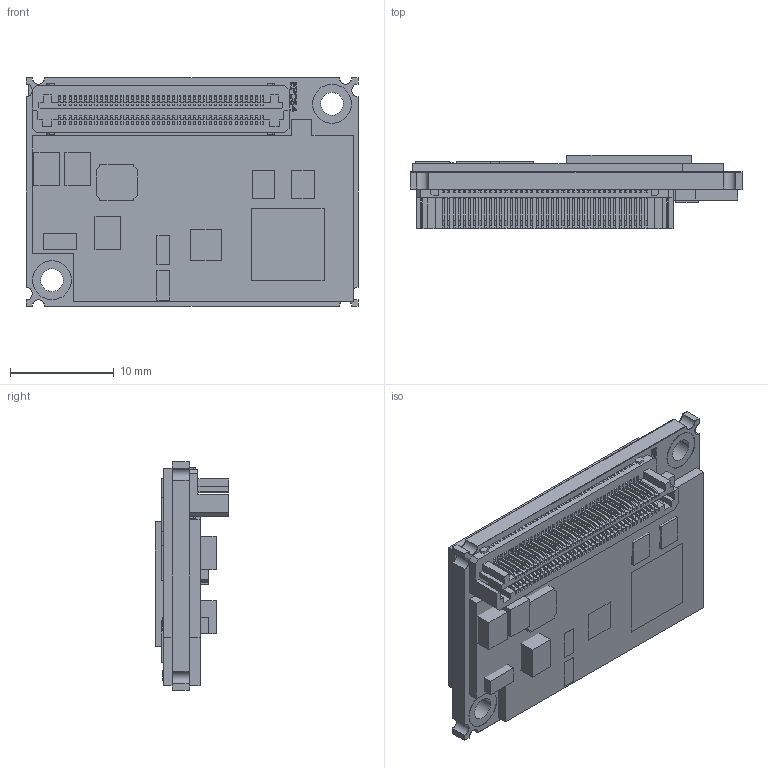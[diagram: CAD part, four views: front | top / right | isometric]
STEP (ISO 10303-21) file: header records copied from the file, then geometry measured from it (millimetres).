
FILE_DESCRIPTION((''),'2;1');
FILE_NAME('EPOS4_MICRO_24-5_ASM','2020-07-27T',('MMAGMMA'),(''),'CREO PARAMETRIC BY PTC INC, 2017300','CREO PARAMETRIC BY PTC INC, 2017300','');
FILE_SCHEMA(('CONFIG_CONTROL_DESIGN'));
Products named in the file (29): EPOS4_MICRO_24-5_PCB; EPOS4_MICRO_24-5_SITO; EPOS4_MICRO_24-5_SIBO; POWERPAK_1212; 0612_R; IC_7X7X1; PQFP-G80; 1210_C; DROSSEL_4X4X1-8; 1206_C; 0603_C; 0402_R; LSHM_EINFACH; DROSSEL_2-7X2-2X1-2; SW3DPS-3-LEAD_SOT23-3; TDFN-8; HVSON8_QFN; 0805_C; QFN28; 0402_C; RESONATOR_CSTCE; EXCLUSION_ZONE_BOTTOM_MICRO_CAN; EXCLUSION_ZONE_TOP_MICRO_CAN; LED_BASE; LED_RED; LED0603_RED_ASM; LED_GREEN; LED0603_GREEN_ASM; EPOS4_MICRO_24-5_ASM
Assembly tree (45 placements, depth 3):
  EPOS4_MICRO_24-5_ASM
    EPOS4_MICRO_24-5_PCB
    EPOS4_MICRO_24-5_SITO
    EPOS4_MICRO_24-5_SIBO
    POWERPAK_1212  x6
    0612_R  x3
    IC_7X7X1
    PQFP-G80
    1210_C  x3
    DROSSEL_4X4X1-8
    1206_C
    0603_C  x4
    0402_R
    LSHM_EINFACH
    DROSSEL_2-7X2-2X1-2  x2
    SW3DPS-3-LEAD_SOT23-3  x2
    TDFN-8
    HVSON8_QFN
    0805_C
    QFN28
    0402_C  x3
    RESONATOR_CSTCE
    EXCLUSION_ZONE_BOTTOM_MICRO_CAN
    EXCLUSION_ZONE_TOP_MICRO_CAN
    LED0603_RED_ASM
      LED_BASE
      LED_RED
    LED0603_GREEN_ASM
      LED_BASE
      LED_GREEN
Bounding box: 32 x 7.05 x 22 mm (x, y, z)
Volume: 2863.1 mm3; surface area: 8846.2 mm2
Topology: 58 solids, 68 shells, 4138 faces, 11334 edges, 7395 vertices
Faces by surface type: plane 3160, cylinder 540, extrusion 406, sphere 28, cone 4
Entity records: 181668 total; most frequent: CARTESIAN_POINT 25220, ORIENTED_EDGE 21642, DIRECTION 18854, PRESENTATION_STYLE_ASSIGNMENT 13782, STYLED_ITEM 10899, EDGE_CURVE 10855, CURVE_STYLE 10843, VECTOR 9254
